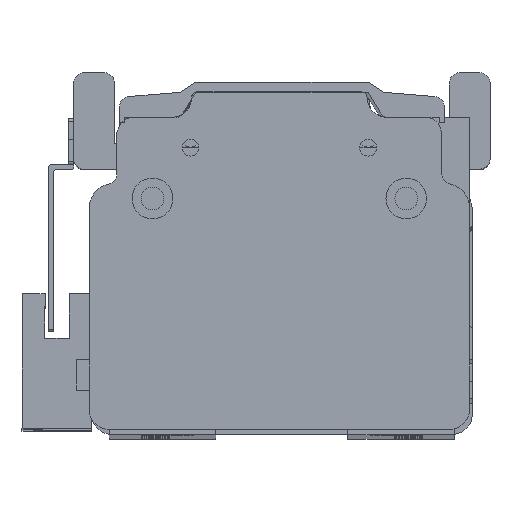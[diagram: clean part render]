
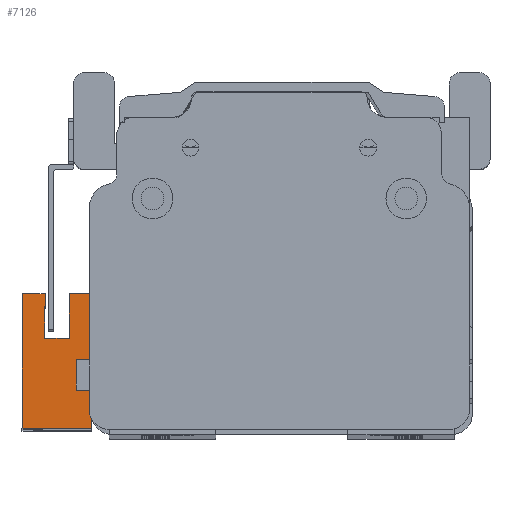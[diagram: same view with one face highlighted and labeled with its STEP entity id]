
A CAD part, top view. The second image highlights one B-rep face of the part: STEP entity #7126.
In plain terms, the highlighted planar face has unit normal (0, 0, 1).
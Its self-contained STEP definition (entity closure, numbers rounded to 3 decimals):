
#518 = VERTEX_POINT ( 'NONE', #22988 ) ;
#547 = CARTESIAN_POINT ( 'NONE',  ( -6.8, 13.3, 6.5 ) ) ;
#621 = LINE ( 'NONE', #9648, #15647 ) ;
#785 = ORIENTED_EDGE ( 'NONE', *, *, #11861, .F. ) ;
#971 = LINE ( 'NONE', #6300, #21245 ) ;
#976 = DIRECTION ( 'NONE',  ( -1., 0., 0. ) ) ;
#1329 = ORIENTED_EDGE ( 'NONE', *, *, #10817, .F. ) ;
#1378 = DIRECTION ( 'NONE',  ( 1., 0., 0. ) ) ;
#1853 = LINE ( 'NONE', #11887, #16873 ) ;
#1982 = DIRECTION ( 'NONE',  ( 0., 0., 1. ) ) ;
#2144 = CARTESIAN_POINT ( 'NONE',  ( -2.4, 4.5, 6.5 ) ) ;
#2159 = CARTESIAN_POINT ( 'NONE',  ( 0., 13.3, 6.5 ) ) ;
#3677 = VECTOR ( 'NONE', #7527, 1000. ) ;
#3767 = ORIENTED_EDGE ( 'NONE', *, *, #21853, .T. ) ;
#3885 = CARTESIAN_POINT ( 'NONE',  ( 0., 0., 6.5 ) ) ;
#4122 = EDGE_LOOP ( 'NONE', ( #20822, #14991, #21802, #785, #8859, #4715, #4824, #25095, #15075, #3767, #16921, #1329 ) ) ;
#4287 = LINE ( 'NONE', #5746, #3677 ) ;
#4422 = LINE ( 'NONE', #6851, #19463 ) ;
#4715 = ORIENTED_EDGE ( 'NONE', *, *, #12188, .T. ) ;
#4824 = ORIENTED_EDGE ( 'NONE', *, *, #21496, .F. ) ;
#5746 = CARTESIAN_POINT ( 'NONE',  ( 3.8, -5.7, 6.5 ) ) ;
#5803 = DIRECTION ( 'NONE',  ( 1., 0., 0. ) ) ;
#6038 = DIRECTION ( 'NONE',  ( 0., -1., 0. ) ) ;
#6300 = CARTESIAN_POINT ( 'NONE',  ( 6.8, 0., 6.5 ) ) ;
#6771 = VERTEX_POINT ( 'NONE', #12421 ) ;
#6851 = CARTESIAN_POINT ( 'NONE',  ( 0., 13.3, 6.5 ) ) ;
#7007 = VECTOR ( 'NONE', #24616, 1000. ) ;
#7126 = ADVANCED_FACE ( 'NONE', ( #14729 ), #11728, .T. ) ;
#7198 = EDGE_CURVE ( 'NONE', #11421, #15990, #1853, .T. ) ;
#7457 = CARTESIAN_POINT ( 'NONE',  ( 3.8, 0.3, 6.5 ) ) ;
#7474 = VERTEX_POINT ( 'NONE', #12812 ) ;
#7527 = DIRECTION ( 'NONE',  ( 1., 0., 0. ) ) ;
#7608 = LINE ( 'NONE', #8849, #7007 ) ;
#8052 = LINE ( 'NONE', #11323, #17920 ) ;
#8849 = CARTESIAN_POINT ( 'NONE',  ( -6.8, 0., 6.5 ) ) ;
#8859 = ORIENTED_EDGE ( 'NONE', *, *, #13096, .F. ) ;
#8971 = LINE ( 'NONE', #16669, #18222 ) ;
#8997 = LINE ( 'NONE', #21341, #23497 ) ;
#9575 = EDGE_CURVE ( 'NONE', #12338, #11421, #9988, .T. ) ;
#9648 = CARTESIAN_POINT ( 'NONE',  ( 0., 4.5, 6.5 ) ) ;
#9988 = LINE ( 'NONE', #2159, #10596 ) ;
#10596 = VECTOR ( 'NONE', #13905, 1000. ) ;
#10817 = EDGE_CURVE ( 'NONE', #6771, #19134, #8971, .T. ) ;
#10966 = EDGE_CURVE ( 'NONE', #18784, #14120, #8052, .T. ) ;
#11120 = VERTEX_POINT ( 'NONE', #15713 ) ;
#11323 = CARTESIAN_POINT ( 'NONE',  ( 3.8, 0.3, 6.5 ) ) ;
#11421 = VERTEX_POINT ( 'NONE', #12846 ) ;
#11728 = PLANE ( 'NONE',  #18607 ) ;
#11861 = EDGE_CURVE ( 'NONE', #11120, #21533, #971, .T. ) ;
#11887 = CARTESIAN_POINT ( 'NONE',  ( -2.4, 0., 6.5 ) ) ;
#12188 = EDGE_CURVE ( 'NONE', #12962, #7474, #8997, .T. ) ;
#12208 = DIRECTION ( 'NONE',  ( 0., -1., 0. ) ) ;
#12338 = VERTEX_POINT ( 'NONE', #547 ) ;
#12421 = CARTESIAN_POINT ( 'NONE',  ( 6.8, -5.7, 6.5 ) ) ;
#12812 = CARTESIAN_POINT ( 'NONE',  ( 2.4, 4.5, 6.5 ) ) ;
#12846 = CARTESIAN_POINT ( 'NONE',  ( -2.4, 13.3, 6.5 ) ) ;
#12962 = VERTEX_POINT ( 'NONE', #24063 ) ;
#13096 = EDGE_CURVE ( 'NONE', #12962, #11120, #4422, .T. ) ;
#13905 = DIRECTION ( 'NONE',  ( 1., 0., 0. ) ) ;
#14120 = VERTEX_POINT ( 'NONE', #19244 ) ;
#14729 = FACE_OUTER_BOUND ( 'NONE', #4122, .T. ) ;
#14783 = DIRECTION ( 'NONE',  ( 0., -1., 0. ) ) ;
#14991 = ORIENTED_EDGE ( 'NONE', *, *, #10966, .F. ) ;
#15075 = ORIENTED_EDGE ( 'NONE', *, *, #9575, .F. ) ;
#15647 = VECTOR ( 'NONE', #5803, 1000. ) ;
#15680 = DIRECTION ( 'NONE',  ( 1., 0., 0. ) ) ;
#15713 = CARTESIAN_POINT ( 'NONE',  ( 6.8, 13.3, 6.5 ) ) ;
#15990 = VERTEX_POINT ( 'NONE', #2144 ) ;
#16669 = CARTESIAN_POINT ( 'NONE',  ( 6.8, 0., 6.5 ) ) ;
#16873 = VECTOR ( 'NONE', #6038, 1000. ) ;
#16921 = ORIENTED_EDGE ( 'NONE', *, *, #18105, .T. ) ;
#17920 = VECTOR ( 'NONE', #19255, 1000. ) ;
#17934 = VECTOR ( 'NONE', #976, 1000. ) ;
#18105 = EDGE_CURVE ( 'NONE', #518, #19134, #24444, .T. ) ;
#18222 = VECTOR ( 'NONE', #14783, 1000. ) ;
#18542 = LINE ( 'NONE', #20543, #17934 ) ;
#18607 = AXIS2_PLACEMENT_3D ( 'NONE', #3885, #1982, #15680 ) ;
#18615 = DIRECTION ( 'NONE',  ( 1., 0., 0. ) ) ;
#18784 = VERTEX_POINT ( 'NONE', #7457 ) ;
#19098 = EDGE_CURVE ( 'NONE', #21533, #18784, #18542, .T. ) ;
#19134 = VERTEX_POINT ( 'NONE', #22613 ) ;
#19244 = CARTESIAN_POINT ( 'NONE',  ( 3.8, -5.7, 6.5 ) ) ;
#19255 = DIRECTION ( 'NONE',  ( 0., -1., 0. ) ) ;
#19463 = VECTOR ( 'NONE', #18615, 1000. ) ;
#20543 = CARTESIAN_POINT ( 'NONE',  ( 3.8, 0.3, 6.5 ) ) ;
#20822 = ORIENTED_EDGE ( 'NONE', *, *, #24137, .F. ) ;
#21245 = VECTOR ( 'NONE', #12208, 1000. ) ;
#21341 = CARTESIAN_POINT ( 'NONE',  ( 2.4, 0., 6.5 ) ) ;
#21496 = EDGE_CURVE ( 'NONE', #15990, #7474, #621, .T. ) ;
#21533 = VERTEX_POINT ( 'NONE', #21642 ) ;
#21642 = CARTESIAN_POINT ( 'NONE',  ( 6.8, 0.3, 6.5 ) ) ;
#21802 = ORIENTED_EDGE ( 'NONE', *, *, #19098, .F. ) ;
#21853 = EDGE_CURVE ( 'NONE', #12338, #518, #7608, .T. ) ;
#22613 = CARTESIAN_POINT ( 'NONE',  ( 6.8, -13.3, 6.5 ) ) ;
#22909 = CARTESIAN_POINT ( 'NONE',  ( 0., -13.3, 6.5 ) ) ;
#22988 = CARTESIAN_POINT ( 'NONE',  ( -6.8, -13.3, 6.5 ) ) ;
#23314 = DIRECTION ( 'NONE',  ( 0., -1., 0. ) ) ;
#23497 = VECTOR ( 'NONE', #23314, 1000. ) ;
#23826 = VECTOR ( 'NONE', #1378, 1000. ) ;
#24063 = CARTESIAN_POINT ( 'NONE',  ( 2.4, 13.3, 6.5 ) ) ;
#24137 = EDGE_CURVE ( 'NONE', #14120, #6771, #4287, .T. ) ;
#24444 = LINE ( 'NONE', #22909, #23826 ) ;
#24616 = DIRECTION ( 'NONE',  ( 0., -1., 0. ) ) ;
#25095 = ORIENTED_EDGE ( 'NONE', *, *, #7198, .F. ) ;
